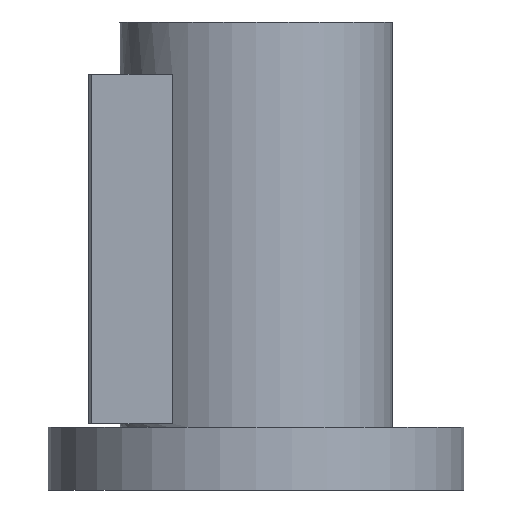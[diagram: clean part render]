
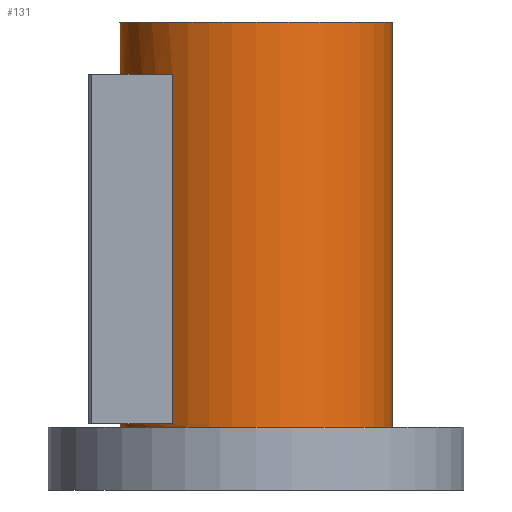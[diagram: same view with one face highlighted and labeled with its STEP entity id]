
A CAD part, front view. The second image highlights one B-rep face of the part: STEP entity #131.
In plain terms, the highlighted cylindrical face has radius 39 mm (diameter 78 mm), a full revolution.
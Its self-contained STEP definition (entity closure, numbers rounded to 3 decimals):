
#131=ADVANCED_FACE('',(#218,#219,#220),#161,.T.);
#161=CYLINDRICAL_SURFACE('',#550,39.);
#174=LINE('',#752,#196);
#175=LINE('',#756,#197);
#196=VECTOR('',#612,1.);
#197=VECTOR('',#615,1.);
#218=FACE_BOUND('',#263,.T.);
#219=FACE_BOUND('',#264,.T.);
#220=FACE_BOUND('',#265,.T.);
#263=EDGE_LOOP('',(#325));
#264=EDGE_LOOP('',(#326));
#265=EDGE_LOOP('',(#327,#328,#329,#330));
#325=ORIENTED_EDGE('',*,*,#467,.F.);
#326=ORIENTED_EDGE('',*,*,#468,.T.);
#327=ORIENTED_EDGE('',*,*,#469,.F.);
#328=ORIENTED_EDGE('',*,*,#470,.F.);
#329=ORIENTED_EDGE('',*,*,#471,.T.);
#330=ORIENTED_EDGE('',*,*,#472,.F.);
#425=VERTEX_POINT('',#746);
#426=VERTEX_POINT('',#748);
#427=VERTEX_POINT('',#750);
#428=VERTEX_POINT('',#751);
#429=VERTEX_POINT('',#753);
#430=VERTEX_POINT('',#755);
#467=EDGE_CURVE('',#425,#425,#517,.T.);
#468=EDGE_CURVE('',#426,#426,#518,.T.);
#469=EDGE_CURVE('',#427,#428,#519,.T.);
#470=EDGE_CURVE('',#429,#427,#174,.T.);
#471=EDGE_CURVE('',#429,#430,#520,.T.);
#472=EDGE_CURVE('',#428,#430,#175,.T.);
#517=CIRCLE('',#546,39.);
#518=CIRCLE('',#547,39.);
#519=CIRCLE('',#548,39.);
#520=CIRCLE('',#549,39.);
#546=AXIS2_PLACEMENT_3D('',#745,#606,#607);
#547=AXIS2_PLACEMENT_3D('',#747,#608,#609);
#548=AXIS2_PLACEMENT_3D('',#749,#610,#611);
#549=AXIS2_PLACEMENT_3D('',#754,#613,#614);
#550=AXIS2_PLACEMENT_3D('',#757,#616,#617);
#606=DIRECTION('',(0.,0.,1.));
#607=DIRECTION('',(1.,0.,0.));
#608=DIRECTION('',(0.,0.,1.));
#609=DIRECTION('',(1.,0.,0.));
#610=DIRECTION('',(0.,0.,-1.));
#611=DIRECTION('',(-1.,0.,0.));
#612=DIRECTION('',(0.,0.,1.));
#613=DIRECTION('',(0.,0.,-1.));
#614=DIRECTION('',(-1.,0.,0.));
#615=DIRECTION('',(0.,0.,-1.));
#616=DIRECTION('',(0.,0.,-1.));
#617=DIRECTION('',(-1.,0.,0.));
#745=CARTESIAN_POINT('',(0.,0.,134.));
#746=CARTESIAN_POINT('',(39.,0.,134.));
#747=CARTESIAN_POINT('',(0.,0.,18.));
#748=CARTESIAN_POINT('',(39.,0.,18.));
#749=CARTESIAN_POINT('',(0.,0.,119.));
#750=CARTESIAN_POINT('',(-24.,-30.741,119.));
#751=CARTESIAN_POINT('',(-24.,30.741,119.));
#752=CARTESIAN_POINT('',(-24.,-30.741,134.));
#753=CARTESIAN_POINT('',(-24.,-30.741,19.));
#754=CARTESIAN_POINT('',(0.,0.,19.));
#755=CARTESIAN_POINT('',(-24.,30.741,19.));
#756=CARTESIAN_POINT('',(-24.,30.741,134.));
#757=CARTESIAN_POINT('',(0.,0.,134.));
